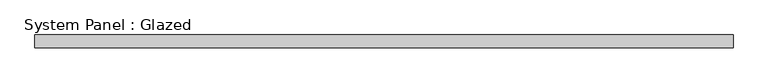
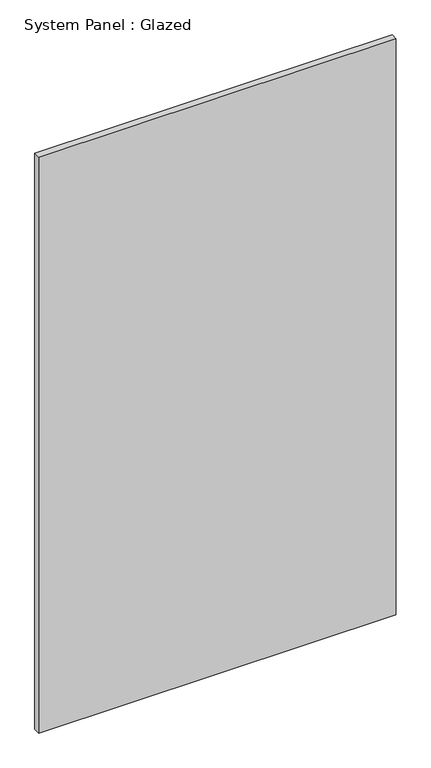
"""IFC4 building model written with IfcOpenShell, lengths in millimetres: plate geometry, System Panel : Glazed."""

from ifc_helpers import new_model, si_unit, origin, origin_with_axes, place, context, project, spatial, polyline, outline, extrude, source, transform, mapped, element, save


def system_panel_glazed_e533d2f5(model_context):
    return source(origin(), model_context, "Body", "SweptSolid", [
        extrude(outline(polyline([(683.0484492, 24.5), (-683.0484492, 24.5), (-683.0484492, 49.5), (683.0484492, 49.5), (683.0484492, 24.5)])), origin_with_axes(), (0.0, 0.0, 1.0), 2325.0),
    ])


if __name__ == "__main__":
    model = new_model("IFC4")
    model_context = context("Model", 3, world=origin())
    ifc_project = project(units=[si_unit("LENGTHUNIT", "METRE", prefix="MILLI")], contexts=[model_context])
    site = spatial("IfcSite", under=ifc_project)
    building = spatial("IfcBuilding", under=site)
    placement = place(None, origin())
    system_panel_glazed_shape = system_panel_glazed_e533d2f5(model_context)
    element("IfcPlate", 1, ObjectType="System Panel : Glazed", at=placement, inside=building, context=model_context, shape_type="MappedRepresentation", body=[
        mapped(system_panel_glazed_shape, transform((0.0, 0.0, 0.0), x_axis=(1.0, 0.0, 0.0), y_axis=(0.0, 1.0, 0.0), z_axis=(0.0, 0.0, 1.0))),
    ])
    save(model, "model.ifc")
